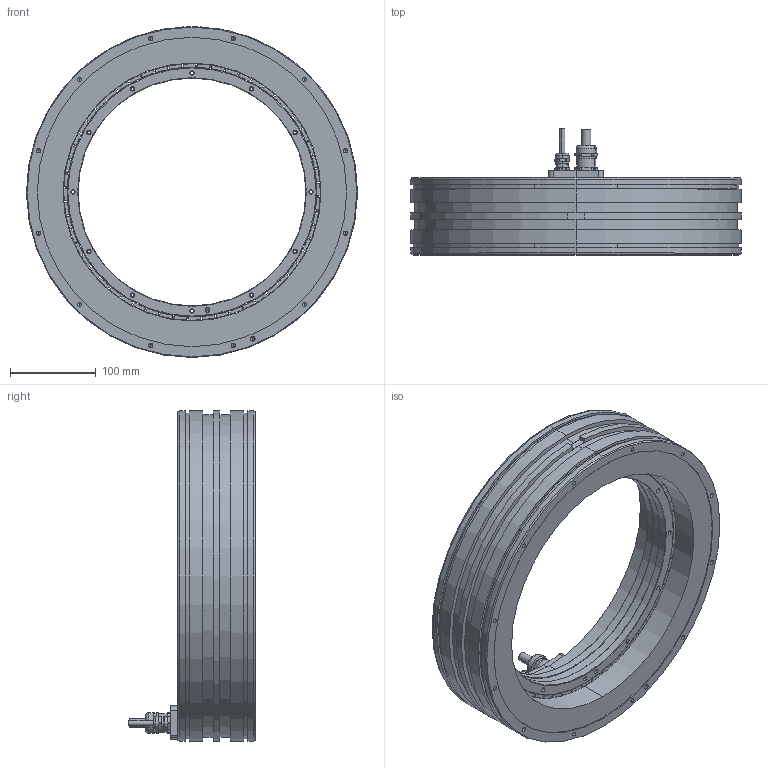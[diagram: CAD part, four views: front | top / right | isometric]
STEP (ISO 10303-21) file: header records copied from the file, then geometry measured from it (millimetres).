
FILE_DESCRIPTION (( 'STEP AP214' ), '1' );
FILE_NAME ('TORQUE KIT QMT LA 385-90-I-AX.STEP', '2025-09-10T12:23:58', ( '' ), ( '' ), 'SwSTEP 2.0', 'SolidWorks 2023', '' );
FILE_SCHEMA (( 'AUTOMOTIVE_DESIGN' ));
Length unit declared in the file: millimetre
Products named in the file (21): Screw; Housing-BO; Rotor Ring; Rotor; Cable Connection; Rotor Glued; Resin; Stator; Cooling Ring; Cable Clamp; Magnet; TORQUE KIT QMT LA 385-90-I-AX; Housing; Cable Gland; Cable
Assembly tree (76 placements, depth 6):
  TORQUE KIT QMT LA 385-90-I-AX
    Stator
      Stator
        Housing
          Housing-BO
            Cooling Ring
        Cable Connection
          Cable Connection
          Cable
          Cable
        Resin
      Cable Clamp
        Cable Clamp
        Cable Gland
        Cable Gland
      Screw  x3
    Rotor
      Rotor Glued
        Rotor Ring
        Magnet  x28
        Magnet  x28
Bounding box: 385 x 147.1 x 385 mm (x, y, z)
Volume: 4331200.2 mm3; surface area: 704821 mm2
Topology: 68 solids, 68 shells, 2545 faces, 5799 edges, 3181 vertices
Faces by surface type: cylinder 1093, sphere 560, plane 424, torus 252, cone 216
Entity records: 31081 total; most frequent: CARTESIAN_POINT 4542, DIRECTION 4539, ORIENTED_EDGE 3750, AXIS2_PLACEMENT_3D 1888, EDGE_CURVE 1875, VERTEX_POINT 1163, CIRCLE 984, EDGE_LOOP 958
